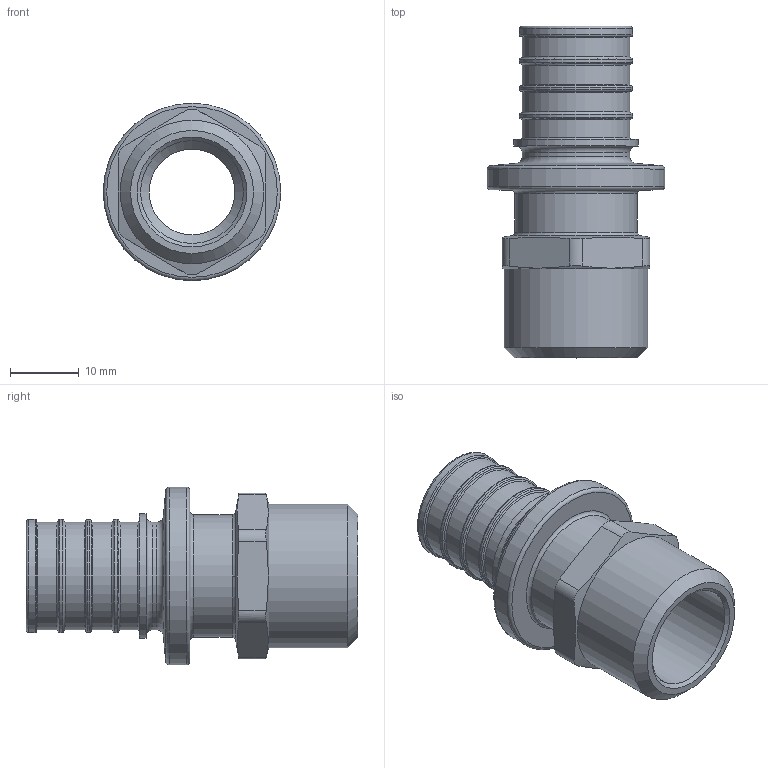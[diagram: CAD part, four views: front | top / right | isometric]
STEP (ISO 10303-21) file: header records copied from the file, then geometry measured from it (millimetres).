
FILE_DESCRIPTION(('STEP AP203'), '1');
FILE_NAME('ﾂﾐ.753137.006 - VTm.401.G.002004 ﾔ頸. 浯葢. G 1-2', '2024-01-23T12:58:02', ('IT'), ('VESTA'), 'C3D Converter', 'C3D Toolkit', '');
FILE_SCHEMA(('CONFIG_CONTROL_DESIGN'));
Length unit declared in the file: millimetre
Products named in the file (1): ВР.753137.006
Bounding box: 25.9 x 48.4 x 25.9 mm (x, y, z)
Volume: 7185.3 mm3; surface area: 5963 mm2
Topology: 1 solids, 1 shells, 62 faces, 133 edges, 76 vertices
Faces by surface type: torus 23, cylinder 21, plane 11, cone 7
Full cylindrical faces by diameter (mm): 12.5 x1, 15 x1, 15.7 x5, 16.5 x4, 17.9 x1, 18.2 x1, 20.955 x1, 25.9 x1
Entity records: 2225 total; most frequent: CARTESIAN_POINT 1041, DIRECTION 242, ORIENTED_EDGE 180, AXIS2_PLACEMENT_3D 115, EDGE_LOOP 110, EDGE_CURVE 90, FACE_OUTER_BOUND 82, VERTEX_POINT 76
